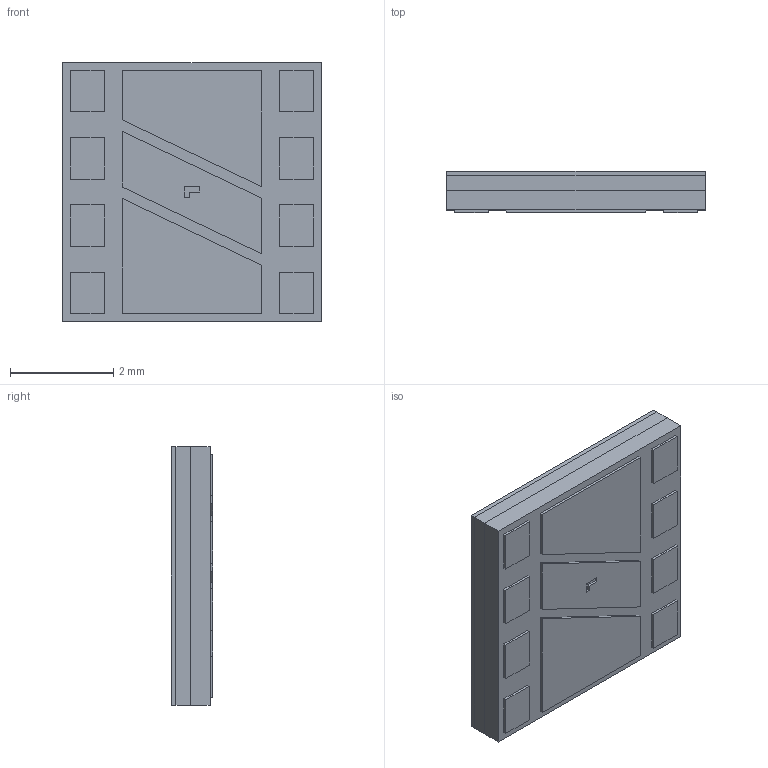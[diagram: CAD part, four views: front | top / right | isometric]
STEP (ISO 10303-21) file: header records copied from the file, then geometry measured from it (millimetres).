
FILE_DESCRIPTION (( 'STEP AP203' ), '1' );
FILE_NAME ('P5(HP50.1).STEP', '2024-01-19T06:35:42', ( '' ), ( '' ), 'SwSTEP 2.0', 'SolidWorks 2016', '' );
FILE_SCHEMA (( 'CONFIG_CONTROL_DESIGN' ));
Length unit declared in the file: millimetre
Products named in the file (1): P5(HP50.1)
Bounding box: 5 x 0.8 x 5 mm (x, y, z)
Volume: 19.5 mm3; surface area: 174.7 mm2
Topology: 4 solids, 4 shells, 90 faces, 210 edges, 140 vertices
Faces by surface type: plane 90
Entity records: 2589 total; most frequent: CARTESIAN_POINT 441, ORIENTED_EDGE 420, DIRECTION 392, VECTOR 210, LINE 210, EDGE_CURVE 210, VERTEX_POINT 140, EDGE_LOOP 104
